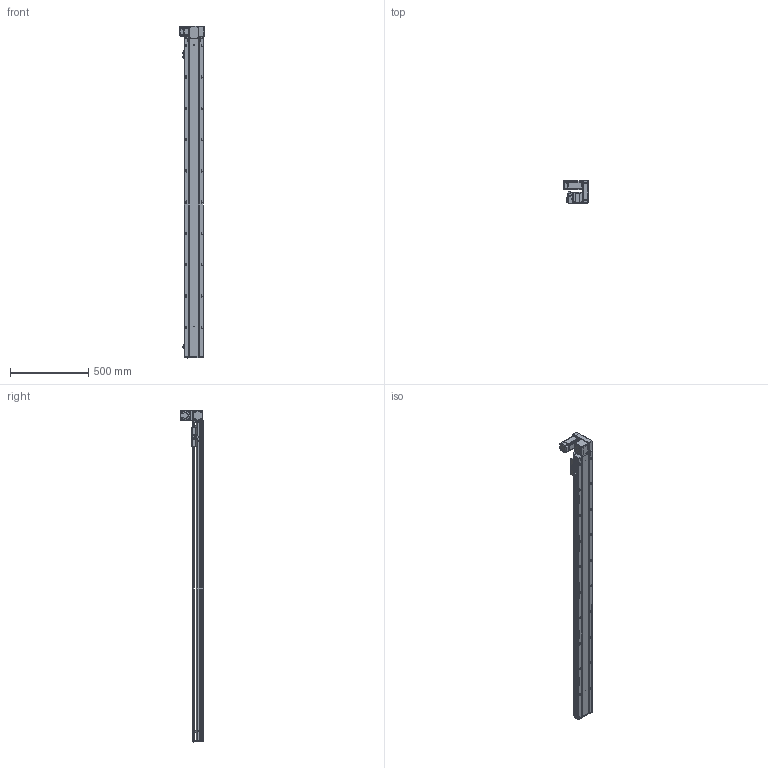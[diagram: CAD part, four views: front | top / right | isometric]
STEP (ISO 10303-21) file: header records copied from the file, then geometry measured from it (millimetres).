
FILE_DESCRIPTION (( 'STEP AP203' ), '1' );
FILE_NAME ('RY120-T-300-UR.SLDASM_1800.step', '2021-03-01T05:58:01', ( '盈信电脑' ), ( '东莞市道滘镇水果街19号' ), 'SwSTEP 2.0', 'SolidWorks 2012', '' );
FILE_SCHEMA (( 'CONFIG_CONTROL_DESIGN' ));
Products named in the file (17): RY120-T-300-UR.SLDASM_1800; RY120-T萇儂欶; RY120-T主同步轮轴承压盖; 滅袉蝶18-10; RY120-T翋肮祭謫裔啣; RY120-T蹟翐M4; 15; RY120-T肮祭湍揤踡輸1; RY120-T肮祭湍揤踡輸2; RY120-T翋肮祭盓傅釱; RY120-T萇儂假蚾啣; 覜茼ん672; RY120外置感应片(140共用）; RY120-T-300-UR倰第奻裔啣_1800; RY120綴裔啣; RY120肮祭湍臏賑輸; RY120-T-300-UR倰第菁釱_1800
Assembly tree (22 placements, depth 2):
  RY120-T-300-UR.SLDASM_1800
    RY120-T-300-UR倰第菁釱_1800
    RY120-T-300-UR倰第奻裔啣_1800
    RY120肮祭湍臏賑輸
    RY120綴裔啣
    覜茼ん672  x3
    RY120外置感应片(140共用）
    RY120-T肮祭湍揤踡輸1
    RY120-T肮祭湍揤踡輸2
    RY120-T翋肮祭盓傅釱
    RY120-T萇儂假蚾啣
    滅袉蝶18-10  x2
    RY120-T翋肮祭謫裔啣
    15
    RY120-T蹟翐M4  x4
    RY120-T萇儂欶
    RY120-T主同步轮轴承压盖
Bounding box: 155.5 x 146 x 2121 mm (x, y, z)
Volume: 5368978.2 mm3; surface area: 2044668.9 mm2
Topology: 23 solids, 23 shells, 3050 faces, 8336 edges, 5314 vertices
Faces by surface type: plane 1442, cylinder 1208, cone 311, bspline 89
Entity records: 97783 total; most frequent: CARTESIAN_POINT 25372, ORIENTED_EDGE 14984, DIRECTION 14158, EDGE_CURVE 7492, VERTEX_POINT 4901, AXIS2_PLACEMENT_3D 4799, LINE 4560, VECTOR 4560
